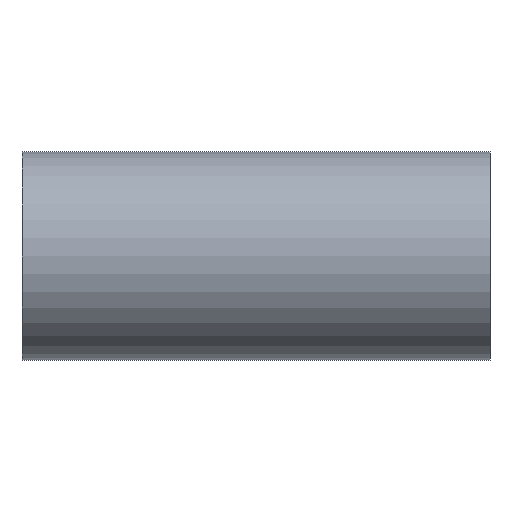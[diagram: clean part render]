
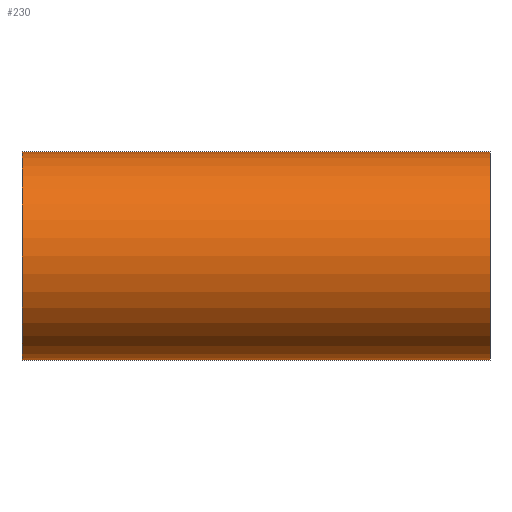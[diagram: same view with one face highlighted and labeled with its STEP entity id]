
A CAD part, front view. The second image highlights one B-rep face of the part: STEP entity #230.
In plain terms, the highlighted cylindrical face has radius 38.1 mm (diameter 76.2 mm), a partial arc.
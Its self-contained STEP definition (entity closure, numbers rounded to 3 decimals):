
#1 = CIRCLE ( 'NONE', #31, 38.1 ) ;
#5 = CARTESIAN_POINT ( 'NONE',  ( -85.7, 0., 38.1 ) ) ;
#6 = VECTOR ( 'NONE', #239, 1000. ) ;
#28 = LINE ( 'NONE', #354, #6 ) ;
#31 = AXIS2_PLACEMENT_3D ( 'NONE', #154, #267, #265 ) ;
#41 = EDGE_CURVE ( 'NONE', #384, #405, #217, .T. ) ;
#45 = CARTESIAN_POINT ( 'NONE',  ( -85.7, 0., -38.1 ) ) ;
#48 = LINE ( 'NONE', #100, #49 ) ;
#49 = VECTOR ( 'NONE', #269, 1000. ) ;
#64 = ORIENTED_EDGE ( 'NONE', *, *, #134, .T. ) ;
#69 = CYLINDRICAL_SURFACE ( 'NONE', #364, 38.1 ) ;
#72 = EDGE_CURVE ( 'NONE', #226, #164, #118, .T. ) ;
#82 = CARTESIAN_POINT ( 'NONE',  ( -85.7, 0., -38.1 ) ) ;
#100 = CARTESIAN_POINT ( 'NONE',  ( -85.7, 0., -38.1 ) ) ;
#115 = DIRECTION ( 'NONE',  ( 0., 0., -1. ) ) ;
#117 = CARTESIAN_POINT ( 'NONE',  ( 85.7, 0., -38.1 ) ) ;
#118 = LINE ( 'NONE', #45, #274 ) ;
#120 = CARTESIAN_POINT ( 'NONE',  ( 85.7, 0., 38.1 ) ) ;
#124 = DIRECTION ( 'NONE',  ( 1., 0., 0. ) ) ;
#134 = EDGE_CURVE ( 'NONE', #384, #226, #391, .T. ) ;
#147 = EDGE_LOOP ( 'NONE', ( #277, #64, #372, #324, #332, #171 ) ) ;
#154 = CARTESIAN_POINT ( 'NONE',  ( 85.7, 0., 0. ) ) ;
#164 = VERTEX_POINT ( 'NONE', #187 ) ;
#166 = AXIS2_PLACEMENT_3D ( 'NONE', #382, #376, #169 ) ;
#169 = DIRECTION ( 'NONE',  ( 0., 0., -1. ) ) ;
#171 = ORIENTED_EDGE ( 'NONE', *, *, #351, .F. ) ;
#187 = CARTESIAN_POINT ( 'NONE',  ( 0., 0., -38.1 ) ) ;
#191 = VERTEX_POINT ( 'NONE', #120 ) ;
#217 = LINE ( 'NONE', #398, #273 ) ;
#226 = VERTEX_POINT ( 'NONE', #82 ) ;
#230 = ADVANCED_FACE ( 'NONE', ( #306 ), #69, .T. ) ;
#239 = DIRECTION ( 'NONE',  ( 1., 0., 0. ) ) ;
#240 = DIRECTION ( 'NONE',  ( 1., 0., 0. ) ) ;
#265 = DIRECTION ( 'NONE',  ( 0., 0., -1. ) ) ;
#267 = DIRECTION ( 'NONE',  ( -1., 0., 0. ) ) ;
#269 = DIRECTION ( 'NONE',  ( 1., 0., 0. ) ) ;
#273 = VECTOR ( 'NONE', #374, 1000. ) ;
#274 = VECTOR ( 'NONE', #124, 1000. ) ;
#275 = CARTESIAN_POINT ( 'NONE',  ( -85.7, 0., 0. ) ) ;
#277 = ORIENTED_EDGE ( 'NONE', *, *, #41, .F. ) ;
#291 = CARTESIAN_POINT ( 'NONE',  ( 0., 0., 38.1 ) ) ;
#306 = FACE_OUTER_BOUND ( 'NONE', #147, .T. ) ;
#324 = ORIENTED_EDGE ( 'NONE', *, *, #343, .T. ) ;
#332 = ORIENTED_EDGE ( 'NONE', *, *, #387, .T. ) ;
#333 = VERTEX_POINT ( 'NONE', #117 ) ;
#343 = EDGE_CURVE ( 'NONE', #164, #333, #48, .T. ) ;
#351 = EDGE_CURVE ( 'NONE', #405, #191, #28, .T. ) ;
#354 = CARTESIAN_POINT ( 'NONE',  ( -85.7, 0., 38.1 ) ) ;
#364 = AXIS2_PLACEMENT_3D ( 'NONE', #275, #240, #115 ) ;
#372 = ORIENTED_EDGE ( 'NONE', *, *, #72, .T. ) ;
#374 = DIRECTION ( 'NONE',  ( 1., 0., 0. ) ) ;
#376 = DIRECTION ( 'NONE',  ( 1., 0., 0. ) ) ;
#382 = CARTESIAN_POINT ( 'NONE',  ( -85.7, 0., 0. ) ) ;
#384 = VERTEX_POINT ( 'NONE', #5 ) ;
#387 = EDGE_CURVE ( 'NONE', #333, #191, #1, .T. ) ;
#391 = CIRCLE ( 'NONE', #166, 38.1 ) ;
#398 = CARTESIAN_POINT ( 'NONE',  ( -85.7, 0., 38.1 ) ) ;
#405 = VERTEX_POINT ( 'NONE', #291 ) ;
